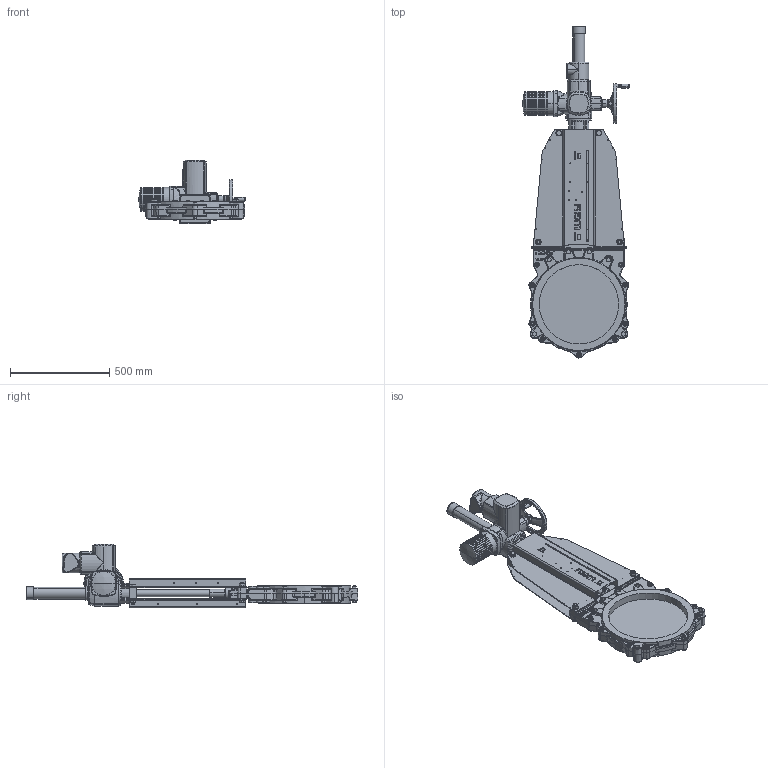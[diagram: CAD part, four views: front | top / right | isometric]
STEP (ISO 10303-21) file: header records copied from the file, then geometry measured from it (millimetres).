
FILE_DESCRIPTION (( 'STEP AP214' ), '1' );
FILE_NAME ('VSE DN 0400.STEP', '2015-09-23T11:22:38', ( 'admin' ), ( 'Hewlett-Packard Company' ), 'SwSTEP 2.0', 'SolidWorks 2013', '' );
FILE_SCHEMA (( 'AUTOMOTIVE_DESIGN' ));
Length unit declared in the file: millimetre
Products named in the file (1): VSE DN 0400
Bounding box: 537 x 1675.5 x 322 mm (x, y, z)
Volume: 23488241.2 mm3; surface area: 2799265.5 mm2
Topology: 75 solids, 79 shells, 3658 faces, 8706 edges, 5169 vertices
Faces by surface type: plane 1149, cylinder 1076, bspline 561, cone 558, torus 284, sphere 30
Entity records: 174817 total; most frequent: CARTESIAN_POINT 53146, ORIENTED_EDGE 17124, DIRECTION 16440, EDGE_CURVE 8562, AXIS2_PLACEMENT_3D 6642, VERTEX_POINT 5169, EDGE_LOOP 4041, UNCERTAINTY_MEASURE_WITH_UNIT 3733
